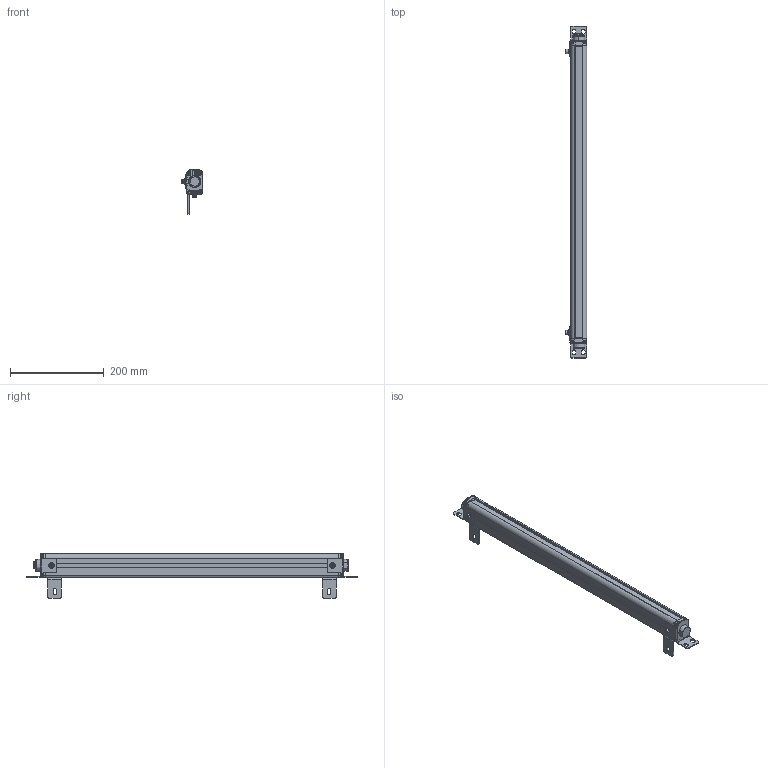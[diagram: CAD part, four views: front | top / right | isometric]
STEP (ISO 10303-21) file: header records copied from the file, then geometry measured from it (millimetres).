
FILE_DESCRIPTION((''),'2;1');
FILE_NAME('ESN--000_ASM','2021-08-10T21:22:22',('18720616900'),(''),'CREO PARAMETRIC BY PTC INC, 2019010','CREO PARAMETRIC BY PTC INC, 2019010','');
FILE_SCHEMA(('CONFIG_CONTROL_DESIGN'));
Products named in the file (22): 00; 000; _0002; _0003; _0004; 5000; 5--0001; ESN_50001_ASM; ST-3-120001; L10001; M6-8--0001; M6-1--00; M6-1-00; M6-80001_ASM; L1--0001_ASM; H1--000; H1--0003_ASM; H1--0001_ASM; ESN--000_ASM
Assembly tree (35 placements, depth 4):
  ESN--000_ASM
    00
    000
    _0002
    _0003
    _0004
    000
    ESN_50001_ASM
      5000
      5--0001  x5
    ST-3-120001  x8
    L1--0001_ASM  x2
      L10001
      M6-80001_ASM
        M6-8--0001
        M6-1--00
        M6-1-00
        00
    H1--0003_ASM
      H1--000
      M6-80001_ASM
        M6-8--0001
        M6-1--00
        M6-1-00
        00
    H1--0001_ASM
      H1--000
      M6-80001_ASM
        M6-8--0001
        M6-1--00
        M6-1-00
        00
Bounding box: 46.5 x 707 x 94.95 mm (x, y, z)
Volume: 983199.3 mm3; surface area: 225060.5 mm2
Topology: 40 solids, 40 shells, 1785 faces, 4708 edges, 3012 vertices
Faces by surface type: plane 583, cylinder 416, bspline 362, cone 291, torus 107, sphere 26
Entity records: 48222 total; most frequent: CARTESIAN_POINT 24957, ORIENTED_EDGE 5136, DIRECTION 4189, EDGE_CURVE 2568, VERTEX_POINT 1669, AXIS2_PLACEMENT_3D 1488, VECTOR 1213, LINE 1213
